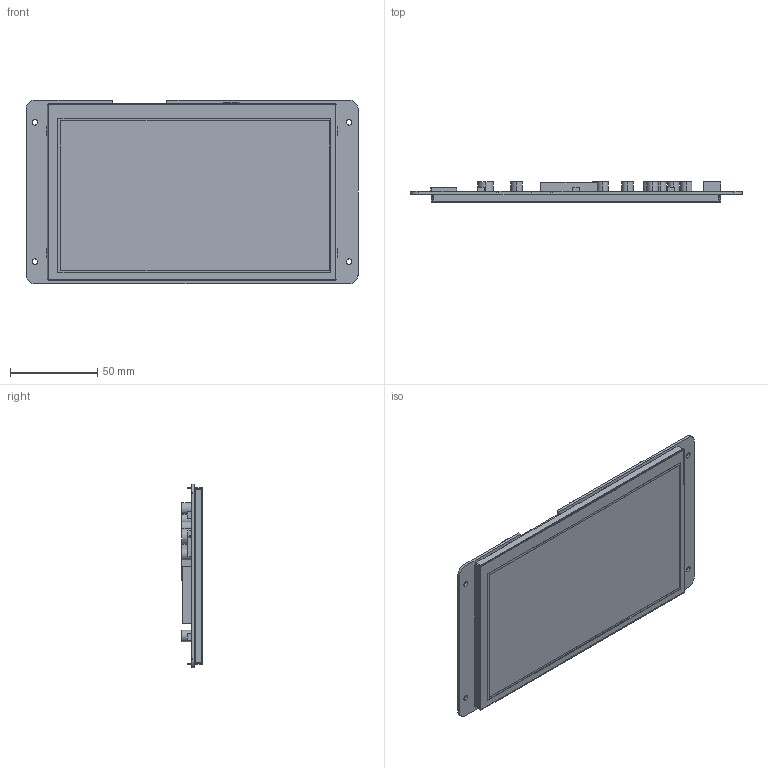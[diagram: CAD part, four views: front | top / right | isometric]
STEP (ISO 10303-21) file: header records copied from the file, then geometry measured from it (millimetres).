
FILE_DESCRIPTION (( 'STEP AP214' ), '1' );
FILE_NAME ('DMG10600T070-01WN 3D.STEP', '2023-09-18T07:07:23', ( '' ), ( 'Microsoft' ), 'SwSTEP 2.0', 'SolidWorks 2017', '' );
FILE_SCHEMA (( 'AUTOMOTIVE_DESIGN' ));
Length unit declared in the file: millimetre
Products named in the file (4): LI10600T070HA3004-W(M02258); TK070019; DMG10600T070-01W; DMG10600T070-01WN  3D
Assembly tree (3 placements, depth 2):
  DMG10600T070-01WN  3D
    DMG10600T070-01W
    TK070019
    LI10600T070HA3004-W(M02258)
Bounding box: 190.5 x 11.7 x 105.41 mm (x, y, z)
Volume: 95680.3 mm3; surface area: 89081.7 mm2
Topology: 3 solids, 3 shells, 361 faces, 991 edges, 650 vertices
Faces by surface type: plane 201, cylinder 152, bspline 8
Entity records: 15242 total; most frequent: CARTESIAN_POINT 2236, ORIENTED_EDGE 1982, DIRECTION 1977, EDGE_CURVE 991, VECTOR 683, LINE 683, VERTEX_POINT 650, AXIS2_PLACEMENT_3D 647
